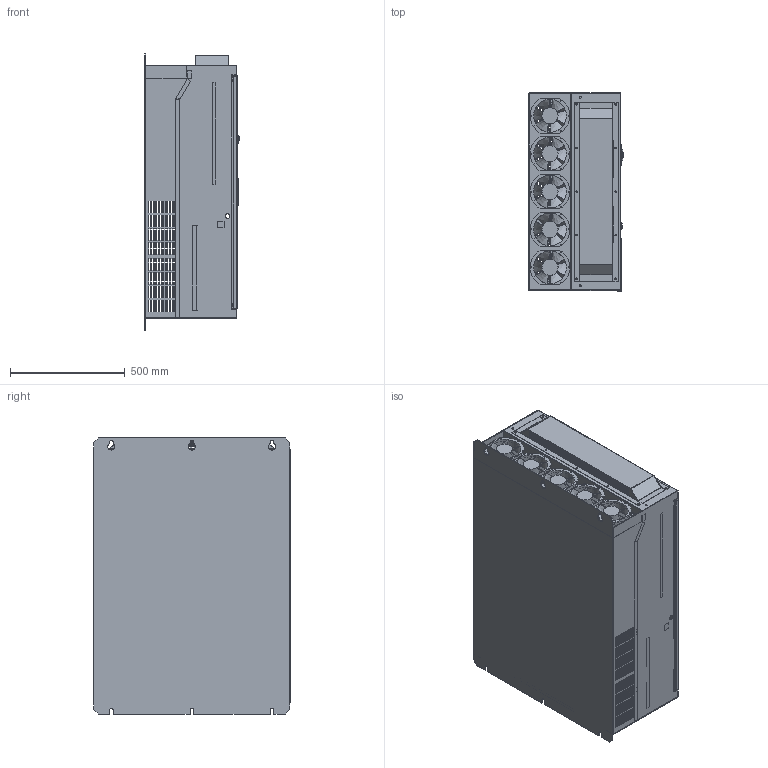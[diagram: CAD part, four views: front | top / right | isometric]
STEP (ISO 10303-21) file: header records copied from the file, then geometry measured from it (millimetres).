
FILE_DESCRIPTION(('STEP AP203'), '1');
FILE_NAME('Âíåø. Ïðåîáðàçîâàòåëü ÷àñòîòû _ LCI-G500-6', '', ('UNSPECIFIED'), ('UNSPECIFIED'), 'C3D Converter', 'C3D Toolkit', '');
FILE_SCHEMA(('CONFIG_CONTROL_DESIGN'));
Length unit declared in the file: millimetre
Products named in the file (31):  LCI-G500-4; LCI-G500; LCI-G500-01; СБДINS LCI-KP-B; Панель управления; Панель управленния
Assembly tree (49 placements, depth 3):
   LCI-G500-4
    LCI-G500
    LCI-G500
    LCI-G500
    LCI-G500
    LCI-G500
    LCI-G500
    LCI-G500  x3
    LCI-G500  x3
    LCI-G500  x7
    LCI-G500  x2
    LCI-G500  x5
    LCI-G500  x2
    LCI-G500
    LCI-G500
    LCI-G500-01
    LCI-G500
    LCI-G500
    LCI-G500-01
    LCI-G500-01
    LCI-G500
    LCI-G500  x4
    LCI-G500
    LCI-G500
    СБДINS LCI-KP-B
      Панель управления
      Панель управленния
      Панель управления
      Панель управления
      Панель управленния
    (unnamed)
Bounding box: 411.1 x 861.9 x 1202 mm (x, y, z)
Volume: 12305369.4 mm3; surface area: 11603102.5 mm2
Topology: 53 solids, 53 shells, 5820 faces, 15676 edges, 10150 vertices
Faces by surface type: plane 4527, cylinder 897, extrusion 190, bspline 178, cone 14, torus 14
Full cylindrical faces by diameter (mm): 1.2 x32, 2.4 x4, 2.5 x30, 2.6 x8, 3 x12, 3.4 x8, 3.5 x109, 4.4 x40, 4.5 x45, 4.9 x8, 5.5 x6, 5.7 x6, 6 x18, 6.2 x4, 7 x49, 7.5 x2, 8 x4, 8.5 x6, 8.6 x4, 12 x4, 15.3 x2, 20 x4, 70 x5, 93 x18, 115 x2, 117 x2, 144 x5, 145 x5
Entity records: 182017 total; most frequent: CARTESIAN_POINT 35723, ORIENTED_EDGE 27888, DIRECTION 25368, EDGE_CURVE 13944, VECTOR 12068, LINE 11878, VERTEX_POINT 9280, EDGE_LOOP 7562
